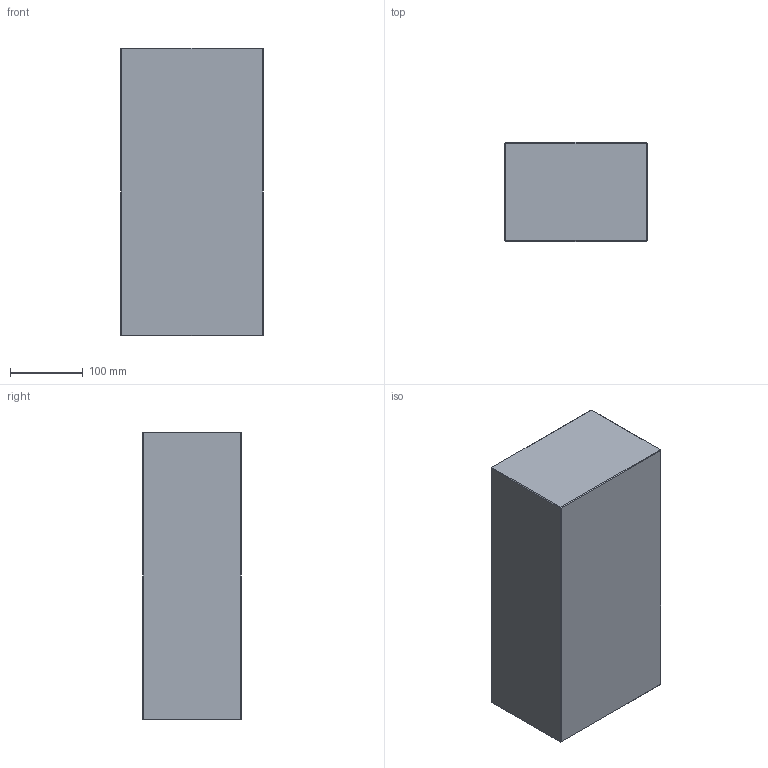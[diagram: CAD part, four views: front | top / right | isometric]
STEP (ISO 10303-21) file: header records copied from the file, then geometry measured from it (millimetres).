
FILE_DESCRIPTION (( 'STEP AP214' ), '1' );
FILE_NAME ('PC-P-196x396x136.STEP', '2020-04-01T08:10:09', ( 'August' ), ( '' ), 'SwSTEP 2.0', 'SolidWorks 2018', '' );
FILE_SCHEMA (( 'AUTOMOTIVE_DESIGN' ));
Length unit declared in the file: millimetre
Products named in the file (1): PC-P-196x396x136
Bounding box: 196 x 136 x 396 mm (x, y, z)
Volume: 10554325.3 mm3; surface area: 314547.2 mm2
Topology: 1 solids, 1 shells, 26 faces, 48 edges, 24 vertices
Faces by surface type: plane 26
Entity records: 634 total; most frequent: DIRECTION 102, CARTESIAN_POINT 99, ORIENTED_EDGE 96, VECTOR 48, EDGE_CURVE 48, LINE 48, AXIS2_PLACEMENT_3D 27, ADVANCED_FACE 26
